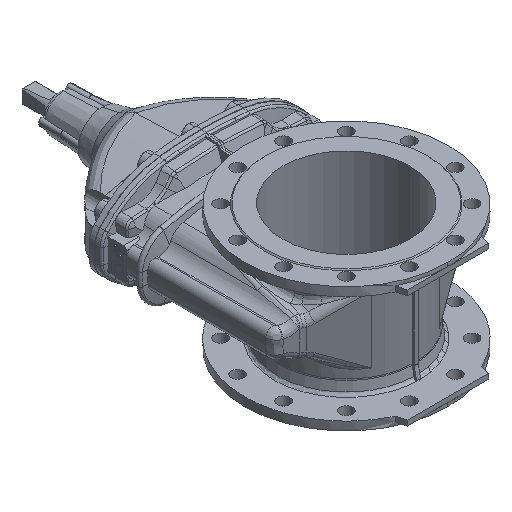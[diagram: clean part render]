
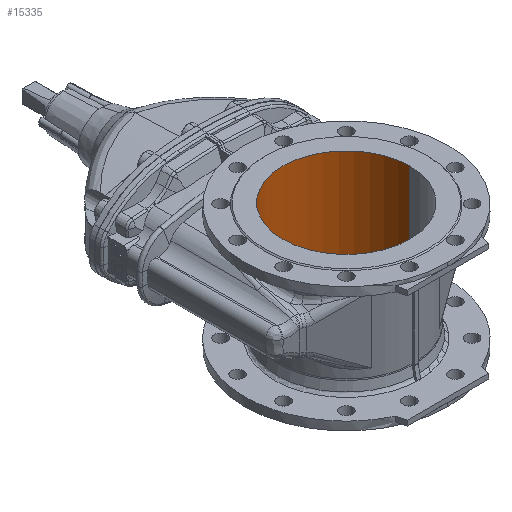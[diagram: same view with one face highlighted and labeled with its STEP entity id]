
A CAD part, isometric view. The second image highlights one B-rep face of the part: STEP entity #15335.
In plain terms, the highlighted cylindrical face has radius 125 mm (diameter 250 mm), a partial arc.
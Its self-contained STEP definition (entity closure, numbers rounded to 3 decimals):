
#53 = CARTESIAN_POINT ( 'NONE',  ( 0., 0., 125. ) ) ;
#887 = EDGE_CURVE ( 'NONE', #19891, #2723, #7019, .T. ) ;
#1182 = VERTEX_POINT ( 'NONE', #16933 ) ;
#2195 = DIRECTION ( 'NONE',  ( 0., 0., 1. ) ) ;
#2680 = CIRCLE ( 'NONE', #12688, 125. ) ;
#2723 = VERTEX_POINT ( 'NONE', #25599 ) ;
#3695 = DIRECTION ( 'NONE',  ( 1., 0., 0. ) ) ;
#4019 = FACE_OUTER_BOUND ( 'NONE', #5786, .T. ) ;
#5786 = EDGE_LOOP ( 'NONE', ( #21303, #23207, #18936, #16175 ) ) ;
#5792 = CYLINDRICAL_SURFACE ( 'NONE', #6569, 125. ) ;
#5927 = DIRECTION ( 'NONE',  ( 0., 0., 1. ) ) ;
#5987 = LINE ( 'NONE', #8173, #8163 ) ;
#6569 = AXIS2_PLACEMENT_3D ( 'NONE', #26736, #5927, #12342 ) ;
#6789 = VERTEX_POINT ( 'NONE', #10140 ) ;
#7019 = LINE ( 'NONE', #13418, #11121 ) ;
#7277 = DIRECTION ( 'NONE',  ( 0., 0., 1. ) ) ;
#8163 = VECTOR ( 'NONE', #2195, 1000. ) ;
#8173 = CARTESIAN_POINT ( 'NONE',  ( -125., 0., -125. ) ) ;
#8336 = DIRECTION ( 'NONE',  ( 0., 0., 1. ) ) ;
#10140 = CARTESIAN_POINT ( 'NONE',  ( -125., 0., 125. ) ) ;
#10888 = DIRECTION ( 'NONE',  ( 1., 0., 0. ) ) ;
#11121 = VECTOR ( 'NONE', #7277, 1000. ) ;
#12310 = EDGE_CURVE ( 'NONE', #1182, #6789, #5987, .T. ) ;
#12342 = DIRECTION ( 'NONE',  ( 1., 0., 0. ) ) ;
#12688 = AXIS2_PLACEMENT_3D ( 'NONE', #53, #8336, #3695 ) ;
#13418 = CARTESIAN_POINT ( 'NONE',  ( 125., 0., -125. ) ) ;
#15335 = ADVANCED_FACE ( 'NONE', ( #4019 ), #5792, .F. ) ;
#16175 = ORIENTED_EDGE ( 'NONE', *, *, #21404, .T. ) ;
#16933 = CARTESIAN_POINT ( 'NONE',  ( -125., 0., -125. ) ) ;
#18622 = EDGE_CURVE ( 'NONE', #19891, #1182, #21282, .T. ) ;
#18936 = ORIENTED_EDGE ( 'NONE', *, *, #887, .T. ) ;
#19184 = DIRECTION ( 'NONE',  ( 0., 0., 1. ) ) ;
#19313 = CARTESIAN_POINT ( 'NONE',  ( 0., 0., -125. ) ) ;
#19891 = VERTEX_POINT ( 'NONE', #25837 ) ;
#21282 = CIRCLE ( 'NONE', #21699, 125. ) ;
#21303 = ORIENTED_EDGE ( 'NONE', *, *, #12310, .F. ) ;
#21404 = EDGE_CURVE ( 'NONE', #2723, #6789, #2680, .T. ) ;
#21699 = AXIS2_PLACEMENT_3D ( 'NONE', #19313, #19184, #10888 ) ;
#23207 = ORIENTED_EDGE ( 'NONE', *, *, #18622, .F. ) ;
#25599 = CARTESIAN_POINT ( 'NONE',  ( 125., 0., 125. ) ) ;
#25837 = CARTESIAN_POINT ( 'NONE',  ( 125., 0., -125. ) ) ;
#26736 = CARTESIAN_POINT ( 'NONE',  ( 0., 0., -125. ) ) ;
